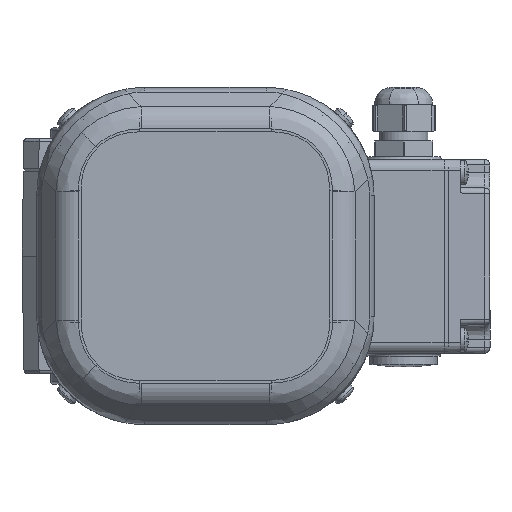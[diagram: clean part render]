
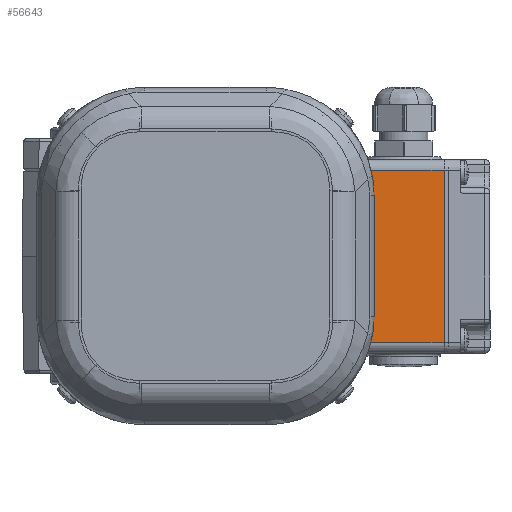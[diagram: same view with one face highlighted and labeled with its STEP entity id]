
A CAD part, left-side view. The second image highlights one B-rep face of the part: STEP entity #56643.
In plain terms, the highlighted planar face has unit normal (-1, 0, 0).
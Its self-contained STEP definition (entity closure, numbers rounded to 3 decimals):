
#582 = DIRECTION ( 'NONE',  ( 0., 0., 1. ) ) ;
#944 = FACE_OUTER_BOUND ( 'NONE', #16158, .T. ) ;
#1357 = EDGE_CURVE ( 'NONE', #42241, #27829, #18441, .T. ) ;
#5026 = LINE ( 'NONE', #46078, #27496 ) ;
#5561 = CARTESIAN_POINT ( 'NONE',  ( -34., 0., 0. ) ) ;
#5815 = VECTOR ( 'NONE', #54657, 1000. ) ;
#7948 = CARTESIAN_POINT ( 'NONE',  ( -34., -32., 0. ) ) ;
#8665 = DIRECTION ( 'NONE',  ( 0., 1., 0. ) ) ;
#8705 = VECTOR ( 'NONE', #10296, 1000. ) ;
#9097 = CARTESIAN_POINT ( 'NONE',  ( -34., -32., -15. ) ) ;
#10296 = DIRECTION ( 'NONE',  ( 0., 1., 0. ) ) ;
#11558 = AXIS2_PLACEMENT_3D ( 'NONE', #28588, #23819, #41682 ) ;
#13141 = EDGE_CURVE ( 'NONE', #52912, #33668, #54985, .T. ) ;
#13744 = CARTESIAN_POINT ( 'NONE',  ( -34., 32., 0. ) ) ;
#16158 = EDGE_LOOP ( 'NONE', ( #20291, #50914, #56694, #33396 ) ) ;
#16793 = EDGE_CURVE ( 'NONE', #42241, #52912, #36469, .T. ) ;
#18441 = LINE ( 'NONE', #44976, #58203 ) ;
#20291 = ORIENTED_EDGE ( 'NONE', *, *, #1357, .F. ) ;
#23819 = DIRECTION ( 'NONE',  ( 1., 0., 0. ) ) ;
#27496 = VECTOR ( 'NONE', #582, 1000. ) ;
#27829 = VERTEX_POINT ( 'NONE', #42713 ) ;
#28588 = CARTESIAN_POINT ( 'NONE',  ( -34., -32., 0. ) ) ;
#33396 = ORIENTED_EDGE ( 'NONE', *, *, #52827, .F. ) ;
#33668 = VERTEX_POINT ( 'NONE', #13744 ) ;
#36469 = LINE ( 'NONE', #9097, #5815 ) ;
#37798 = PLANE ( 'NONE',  #11558 ) ;
#38047 = CARTESIAN_POINT ( 'NONE',  ( -34., -32., -30. ) ) ;
#41682 = DIRECTION ( 'NONE',  ( 0., 0., -1. ) ) ;
#42241 = VERTEX_POINT ( 'NONE', #38047 ) ;
#42713 = CARTESIAN_POINT ( 'NONE',  ( -34., 32., -30. ) ) ;
#44976 = CARTESIAN_POINT ( 'NONE',  ( -34., 0., -30. ) ) ;
#46078 = CARTESIAN_POINT ( 'NONE',  ( -34., 32., -15. ) ) ;
#50914 = ORIENTED_EDGE ( 'NONE', *, *, #16793, .T. ) ;
#52827 = EDGE_CURVE ( 'NONE', #27829, #33668, #5026, .T. ) ;
#52912 = VERTEX_POINT ( 'NONE', #7948 ) ;
#54657 = DIRECTION ( 'NONE',  ( 0., 0., 1. ) ) ;
#54985 = LINE ( 'NONE', #5561, #8705 ) ;
#56643 = ADVANCED_FACE ( 'NONE', ( #944 ), #37798, .F. ) ;
#56694 = ORIENTED_EDGE ( 'NONE', *, *, #13141, .T. ) ;
#58203 = VECTOR ( 'NONE', #8665, 1000. ) ;
